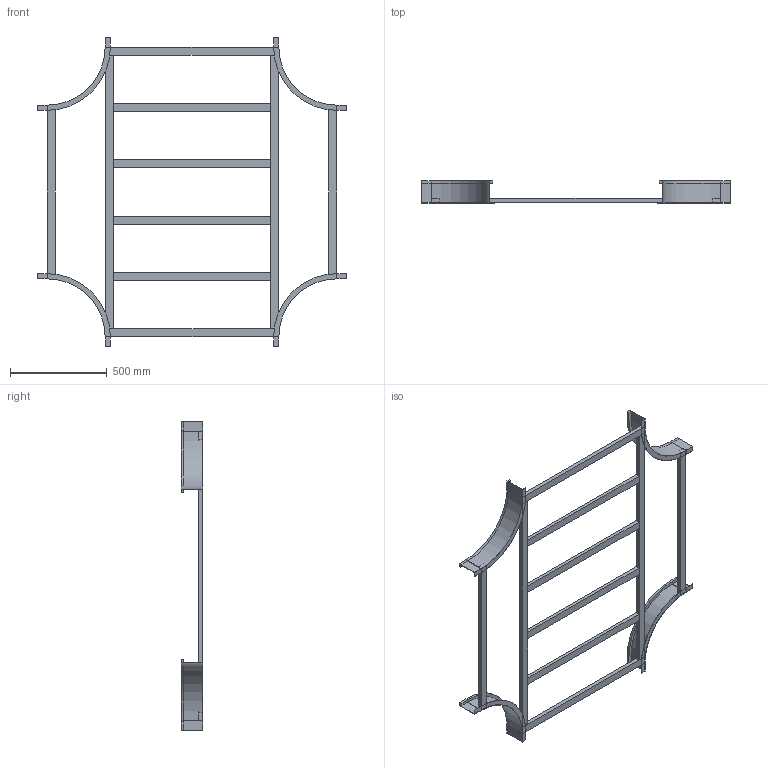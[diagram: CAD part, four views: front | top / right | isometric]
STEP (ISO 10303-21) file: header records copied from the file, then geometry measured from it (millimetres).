
FILE_DESCRIPTION (( 'STEP AP214' ), '1' );
FILE_NAME ('B2_17B3J900.step', '2025-02-21T15:57:36', ( '' ), ( '' ), 'SwSTEP 2.0', 'SolidWorks 2023', '' );
FILE_SCHEMA (( 'AUTOMOTIVE_DESIGN' ));
Length unit declared in the file: millimetre
Products named in the file (5): B2_TRAVERSINO_LONG._R300+900; TRAVERSINO_900; B2_17B3J900; TRAVERSINO_INTERMEDIO_R300+900; B2_LONGH.INTERNO 90°_H112.5_R300
Assembly tree (14 placements, depth 2):
  B2_17B3J900
    B2_LONGH.INTERNO 90°_H112.5_R300  x4
    TRAVERSINO_900  x4
    B2_TRAVERSINO_LONG._R300+900  x2
    TRAVERSINO_INTERMEDIO_R300+900  x4
Bounding box: 1600 x 112.5 x 1600 mm (x, y, z)
Volume: 8927527 mm3; surface area: 1911604.5 mm2
Topology: 14 solids, 14 shells, 164 faces, 344 edges, 208 vertices
Faces by surface type: plane 148, cylinder 16
Entity records: 1370 total; most frequent: DIRECTION 222, CARTESIAN_POINT 209, ORIENTED_EDGE 184, EDGE_CURVE 92, VECTOR 84, LINE 84, AXIS2_PLACEMENT_3D 69, VERTEX_POINT 56
